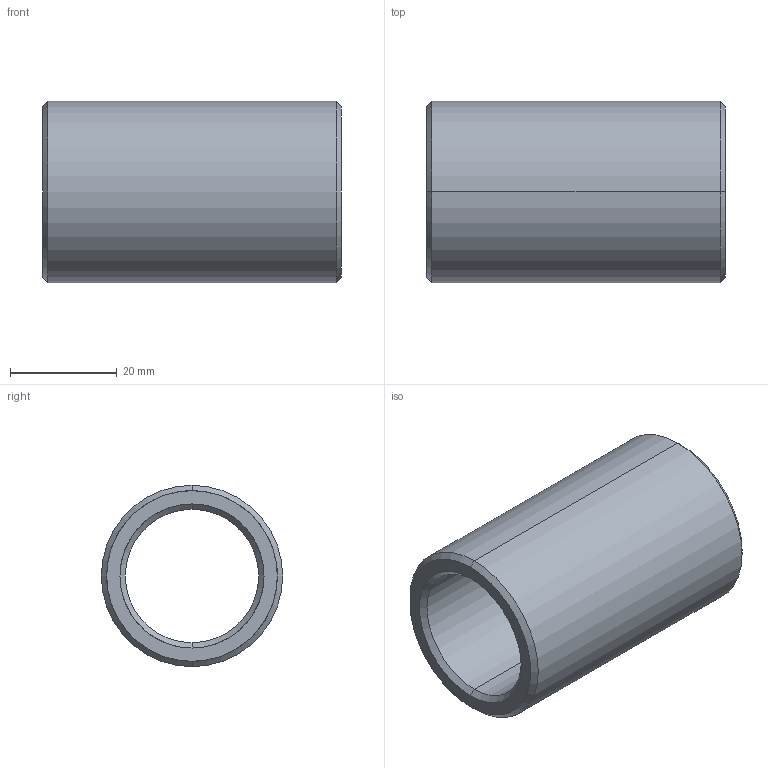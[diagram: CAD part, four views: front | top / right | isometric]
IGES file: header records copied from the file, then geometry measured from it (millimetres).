
Start section: START RECORD GO HERE.
Global section: file name: 352-25X56.igs; native system: DASSAULT SYSTEMES CATIA V5 R20 - www.3ds.com; preprocessor: CATIA Version 5 Release 20 ; author: Utente; organization: NB04-ASUS; date: 20210414.172911; units: millimetre
Bounding box: 56 x 34 x 34 mm (x, y, z)
Surface area: 11008.2 mm2 (no closed solid volume)
Topology: 0 solids, 0 shells, 14 faces, 88 edges, 88 vertices
Faces by surface type: revolution 12, plane 2
